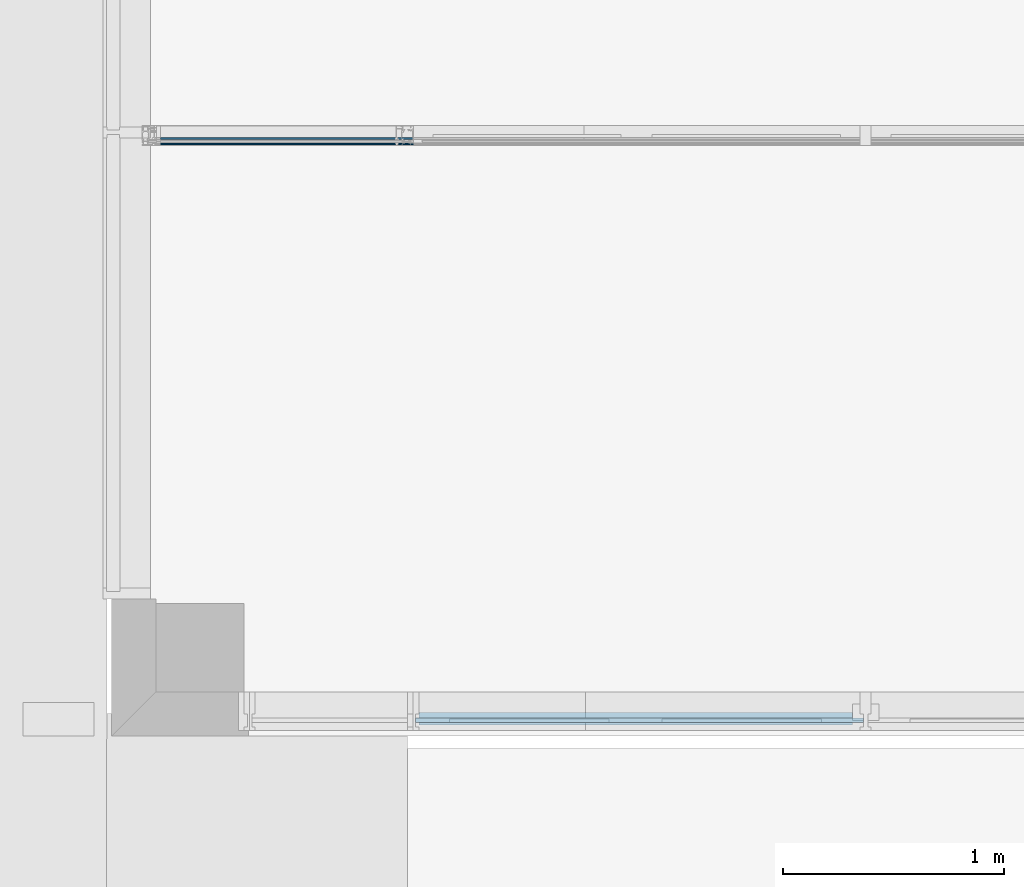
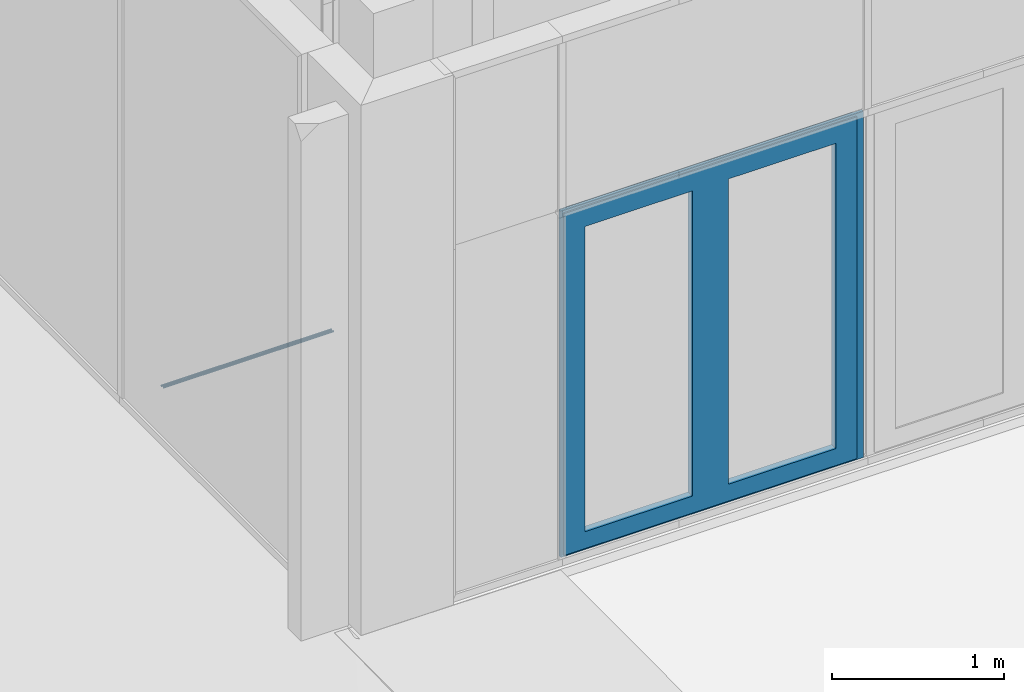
# One storey, part 14 of 69: 2 building element parts, 4 elements without a shape of their own.
"""IFC2X3 building model written with IfcOpenShell, lengths in millimetres."""

from ifc_helpers import new_model, entity, si_unit, converted_unit, derived_unit, money_unit, direction, frame, origin_with_axes, place, context, subcontext, project, spatial, faceted_brep, material, type_object, element, aggregate, save


model = new_model("IFC2X3")

# Units and contexts
model_context = context("Model", 3, precision=0.01, world=origin_with_axes(), true_north=direction((0.0, 1.0)))
body_context = subcontext(model_context, "Body", "Model", "MODEL_VIEW")
ifc_project = project(units=[si_unit("LENGTHUNIT", "METRE", prefix="MILLI"), si_unit("AREAUNIT", "SQUARE_METRE"), si_unit("VOLUMEUNIT", "CUBIC_METRE"), converted_unit("PLANEANGLEUNIT", "DEGREE", entity("IfcPlaneAngleMeasure", 0.0174532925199), si_unit("PLANEANGLEUNIT", "RADIAN"), dimensions=[0, 0, 0, 0, 0, 0, 0]), si_unit("SOLIDANGLEUNIT", "STERADIAN"), money_unit("EUR"), converted_unit("TIMEUNIT", "Year", entity("IfcTimeMeasure", 31556926.0), si_unit("TIMEUNIT", "SECOND"), dimensions=[0, 0, 1, 0, 0, 0, 0]), si_unit("MASSUNIT", "GRAM", prefix="KILO"), si_unit("THERMODYNAMICTEMPERATUREUNIT", "DEGREE_CELSIUS"), si_unit("LUMINOUSINTENSITYUNIT", "LUMEN"), si_unit("ENERGYUNIT", "JOULE", prefix="MEGA"), derived_unit("THERMALCONDUCTANCEUNIT", [(si_unit("POWERUNIT", "WATT"), 1), (si_unit("LENGTHUNIT", "METRE"), -1), (si_unit("THERMODYNAMICTEMPERATUREUNIT", "KELVIN"), -1)]), derived_unit("SPECIFICHEATCAPACITYUNIT", [(si_unit("ENERGYUNIT", "JOULE"), 1), (si_unit("MASSUNIT", "GRAM", prefix="KILO"), -1), (si_unit("THERMODYNAMICTEMPERATUREUNIT", "KELVIN"), -1)]), derived_unit("MASSDENSITYUNIT", [(si_unit("MASSUNIT", "GRAM", prefix="KILO"), 1), (si_unit("VOLUMEUNIT", "CUBIC_METRE"), -1)])], contexts=[model_context])

# Site, building, storey
site_placement = place(None, origin_with_axes())
site = spatial("IfcSite", under=ifc_project, at=site_placement, Name="Puškini 31, Narva", CompositionType="ELEMENT")
building_placement = place(site_placement, origin_with_axes())
building = spatial("IfcBuilding", under=site, at=building_placement, Name="Narva Riigigümnaasium", CompositionType="ELEMENT")
storey_placement = place(building_placement, origin_with_axes())
storey = spatial("IfcBuildingStorey", under=building, at=storey_placement, Name="1.korrus 0.00", CompositionType="ELEMENT", Elevation=0.0)

# Curtain wall, member, building element part
curtain_wall_type = type_object("IfcCurtainWallType", Name="Curtain Wall Type", PredefinedType="NOTDEFINED")
curtain_wall_1_placement = place(storey_placement, frame((18229.9603698, 152620.000001, -0.397158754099), z_axis=(0.0, 0.0, 1.0), x_axis=(1.0, 0.0, 0.0)))
curtain_wall_1 = element("IfcCurtainWall", 1, at=curtain_wall_1_placement, inside=storey, type_object=curtain_wall_type, Name="G-KLF-01-1")
member_type = type_object("IfcMemberType", Name="61 x 45", PredefinedType="MULLION")
member_placement = place(curtain_wall_1_placement, frame((-941.130133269, 0.0, 0.0), z_axis=(-1.0, 0.0, 0.0), x_axis=(0.0, 0.0, 1.0)))
member = element("IfcMember", 2, at=member_placement, type_object=member_type, Name="G-SKLF-01-raam", ObjectType="MULLION")
aggregate(curtain_wall_1, [member])
ifc_material_1 = material(Name="Membraan - Veekindel")
building_element_part_1_placement = place(member_placement, origin_with_axes())
building_element_part_1 = element("IfcBuildingElementPart", 3, at=building_element_part_1_placement, material=ifc_material_1, Name="Membraan - Veekindel", context=body_context, shape_type="Brep", body=[
    faceted_brep([(61.0413385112, -34.3890442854, 0.0), (61.0413385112, -34.3890442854, 1145.07042228), (59.5800222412, -34.73794757, 1145.07042228), (59.5800222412, -34.73794757, 0.0), (61.1536677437, -34.1934467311, 0.0), (61.1536677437, -34.1934467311, 1145.07042228), (61.1423164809, -33.9681748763, 1145.07042228), (61.0108941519, -33.784859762, 1145.07042228), (60.7381535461, -33.9217644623, 1145.07042228), (59.8409257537, -34.1343131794, 1145.07042228), (58.2346494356, -34.5489145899, 1145.07042228), (56.9567944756, -35.6067920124, 1145.07042228), (56.2495873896, -37.1074172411, 1145.07042228), (56.1542959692, -37.3107917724, 1145.07042228), (55.9795989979, -37.4519392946, 1145.07042228), (55.7607444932, -37.5023809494, 1145.07042228), (55.1093263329, -37.5023809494, 1145.07042228), (54.8593263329, -37.4353936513, 1145.07042228), (54.676313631, -37.2523809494, 1145.07042228), (54.2721684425, -36.5523809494, 1145.07042228), (54.0891557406, -36.3693682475, 1145.07042228), (53.8391557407, -36.3023809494, 1145.07042228), (51.602145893, -36.3023809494, 1145.07042228), (51.352145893, -36.3693682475, 1145.07042228), (51.1691331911, -36.5523809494, 1145.07042228), (50.7649880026, -37.2523809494, 1145.07042228), (50.5819753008, -37.4353936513, 1145.07042228), (50.3319753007, -37.5023809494, 1145.07042228), (49.2206527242, -37.5023809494, 1145.07042228), (48.9706527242, -37.5693682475, 1145.07042228), (48.7876400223, -37.7523809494, 1145.07042228), (48.7206527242, -38.0023809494, 1145.07042228), (48.7206527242, -39.1999494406, 1145.07042228), (50.10004, -39.1999494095, 1145.07042228), (50.1670287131, -38.9499497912, 1145.07042228), (50.3500424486, -38.7669381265, 1145.07042228), (50.6000428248, -38.699952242, 1145.07042228), (50.8500424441, -38.7669409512, 1145.07042228), (51.0330541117, -38.9499546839, 1145.07042228), (51.10004, -39.1999550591, 1145.07042228), (51.10004, -40.4999366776, 1145.07042228), (51.0598476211, -40.6499366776, 1145.07042228), (50.95004, -40.7597442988, 1145.07042228), (50.80004, -40.7999366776, 1145.07042228), (50.7000457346, -40.7999366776, 1145.07042228), (50.5334025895, -40.8504763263, 1145.07042228), (50.4229059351, -40.9850671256, 1145.07042228), (50.4057850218, -41.1583618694, 1145.07042228), (50.4878083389, -41.3119729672, 1145.07042228), (51.5281601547, -42.3533311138, 1145.07042228), (51.6904310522, -42.4618421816, 1145.07042228), (51.8818844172, -42.4999486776, 1145.07042228), (53.517932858, -42.4999486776, 1145.07042228), (53.7093558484, -42.4618547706, 1145.07042228), (53.8716106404, -42.3533776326, 1145.07042228), (54.9122350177, -41.3120206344, 1145.07042228), (54.9942836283, -41.1584047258, 1145.07042228), (54.9771753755, -40.9850924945, 1145.07042228), (54.866675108, -40.850483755, 1145.07042228), (54.7000173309, -40.7999366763, 1145.07042228), (54.6000210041, -40.7999366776, 1145.07042228), (54.4500210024, -40.7597443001, 1145.07042228), (54.3402133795, -40.6499366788, 1145.07042228), (54.300021, -40.4999366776, 1145.07042228), (54.300021, -39.1999606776, 1145.07042228), (54.3670082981, -38.9499606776, 1145.07042228), (54.5500210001, -38.7669479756, 1145.07042228), (54.8000210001, -38.6999606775, 1145.07042228), (55.0500210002, -38.7669479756, 1145.07042228), (55.2330337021, -38.9499606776, 1145.07042228), (55.3000210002, -39.1999606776, 1145.07042228), (57.3000022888, -39.1999494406, 1145.07042228), (57.3000022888, -39.9999846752, 1145.07042228), (57.5000161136, -39.9463912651, 1145.07042228), (57.6464370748, -39.7999717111, 1145.07042228), (57.7000324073, -39.5999584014, 1145.07042228), (57.9693613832, -36.5265882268, 1145.07042228), (58.4755028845, -35.3628499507, 1145.07042228), (53.5000340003, -40.7999553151, 1145.07042228), (53.4330491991, -41.0499459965, 1145.07042228), (53.2500433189, -41.2329518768, 1145.07042228), (53.0000526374, -41.299936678, 1145.07042228), (52.4000083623, -41.299936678, 1145.07042228), (52.150017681, -41.2329518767, 1145.07042228), (51.9670118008, -41.0499459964, 1145.07042228), (51.9000269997, -40.799955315, 1145.07042228), (51.9000269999, -39.6999268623, 1145.07042228), (51.9670129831, -39.4499317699, 1145.07042228), (52.1500220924, -39.2669226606, 1145.07042228), (52.4000171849, -39.1999366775, 1145.07042228), (53.0000438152, -39.1999366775, 1145.07042228), (53.2500389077, -39.2669226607, 1145.07042228), (53.433048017, -39.44993177, 1145.07042228), (58.4755028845, -35.3628499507, 0.0), (57.9693613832, -36.5265882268, 0.0), (57.7000324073, -39.5999584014, 0.0), (57.6464370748, -39.7999717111, 0.0), (57.5000161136, -39.9463912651, 0.0), (57.3000022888, -39.9999846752, 0.0), (57.3000022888, -39.1999494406, 0.0), (55.3000210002, -39.1999606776, 0.0), (55.2330337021, -38.9499606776, 0.0), (55.0500210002, -38.7669479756, 0.0), (54.8000210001, -38.6999606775, 0.0), (54.5500210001, -38.7669479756, 0.0), (54.3670082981, -38.9499606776, 0.0), (54.300021, -39.1999606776, 0.0), (54.300021, -40.4999366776, 0.0), (54.3402133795, -40.6499366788, 0.0), (54.4500210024, -40.7597443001, 0.0), (54.6000210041, -40.7999366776, 0.0), (54.7000173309, -40.7999366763, 0.0), (54.866675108, -40.850483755, 0.0), (54.9771753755, -40.9850924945, 0.0), (54.9942836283, -41.1584047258, 0.0), (54.9122350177, -41.3120206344, 0.0), (53.8716106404, -42.3533776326, 0.0), (53.7093558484, -42.4618547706, 0.0), (53.517932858, -42.4999486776, 0.0), (51.8818844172, -42.4999486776, 0.0), (51.6904310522, -42.4618421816, 0.0), (51.5281601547, -42.3533311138, 0.0), (50.4878083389, -41.3119729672, 0.0), (50.4057850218, -41.1583618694, 0.0), (50.4229059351, -40.9850671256, 0.0), (50.5334025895, -40.8504763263, 0.0), (50.7000457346, -40.7999366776, 0.0), (50.80004, -40.7999366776, 0.0), (50.95004, -40.7597442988, 0.0), (51.0598476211, -40.6499366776, 0.0), (51.10004, -40.4999366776, 0.0), (51.10004, -39.1999550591, 0.0), (51.0330541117, -38.9499546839, 0.0), (50.8500424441, -38.7669409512, 0.0), (50.6000428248, -38.699952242, 0.0), (50.3500424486, -38.7669381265, 0.0), (50.1670287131, -38.9499497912, 0.0), (50.10004, -39.1999494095, 0.0), (48.7206527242, -39.1999494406, 0.0), (48.7206527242, -38.0023809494, 0.0), (48.7876400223, -37.7523809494, 0.0), (48.9706527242, -37.5693682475, 0.0), (49.2206527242, -37.5023809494, 0.0), (50.3319753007, -37.5023809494, 0.0), (50.5819753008, -37.4353936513, 0.0), (50.7649880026, -37.2523809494, 0.0), (51.1691331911, -36.5523809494, 0.0), (51.352145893, -36.3693682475, 0.0), (51.602145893, -36.3023809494, 0.0), (53.8391557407, -36.3023809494, 0.0), (54.0891557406, -36.3693682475, 0.0), (54.2721684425, -36.5523809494, 0.0), (54.676313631, -37.2523809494, 0.0), (54.8593263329, -37.4353936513, 0.0), (55.1093263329, -37.5023809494, 0.0), (55.7607444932, -37.5023809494, 0.0), (55.9795989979, -37.4519392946, 0.0), (56.1542959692, -37.3107917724, 0.0), (56.2495873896, -37.1074172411, 0.0), (56.9567944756, -35.6067920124, 0.0), (58.2346494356, -34.5489145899, 0.0), (59.8409257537, -34.1343131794, 0.0), (60.7381535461, -33.9217644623, 0.0), (61.0108941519, -33.784859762, 0.0), (61.1423164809, -33.9681748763, 0.0), (53.5000340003, -40.7999553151, 0.0), (53.433048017, -39.44993177, 0.0), (53.2500389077, -39.2669226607, 0.0), (53.0000438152, -39.1999366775, 0.0), (52.4000171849, -39.1999366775, 0.0), (52.1500220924, -39.2669226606, 0.0), (51.9670129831, -39.4499317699, 0.0), (51.9000269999, -39.6999268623, 0.0), (51.9000269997, -40.799955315, 0.0), (51.9670118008, -41.0499459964, 0.0), (52.150017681, -41.2329518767, 0.0), (52.4000083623, -41.299936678, 0.0), (53.0000526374, -41.299936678, 0.0), (53.2500433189, -41.2329518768, 0.0), (53.4330491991, -41.0499459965, 0.0)], [[[0, 1, 2, 3]], [[4, 5, 1, 0]], [[1, 5, 6, 7, 8, 9, 10, 11, 12, 13, 14, 15, 16, 17, 18, 19, 20, 21, 22, 23, 24, 25, 26, 27, 28, 29, 30, 31, 32, 33, 34, 35, 36, 37, 38, 39, 40, 41, 42, 43, 44, 45, 46, 47, 48, 49, 50, 51, 52, 53, 54, 55, 56, 57, 58, 59, 60, 61, 62, 63, 64, 65, 66, 67, 68, 69, 70, 71, 72, 73, 74, 75, 76, 77, 2], [78, 79, 80, 81, 82, 83, 84, 85, 86, 87, 88, 89, 90, 91, 92]], [[3, 2, 77, 93]], [[0, 3, 93, 94, 95, 96, 97, 98, 99, 100, 101, 102, 103, 104, 105, 106, 107, 108, 109, 110, 111, 112, 113, 114, 115, 116, 117, 118, 119, 120, 121, 122, 123, 124, 125, 126, 127, 128, 129, 130, 131, 132, 133, 134, 135, 136, 137, 138, 139, 140, 141, 142, 143, 144, 145, 146, 147, 148, 149, 150, 151, 152, 153, 154, 155, 156, 157, 158, 159, 160, 161, 162, 163, 164, 4], [165, 166, 167, 168, 169, 170, 171, 172, 173, 174, 175, 176, 177, 178, 179]], [[164, 6, 5, 4]], [[163, 7, 6, 164]], [[162, 8, 7, 163]], [[161, 9, 8, 162]], [[160, 10, 9, 161]], [[159, 11, 10, 160]], [[158, 12, 11, 159]], [[157, 13, 12, 158]], [[156, 14, 13, 157]], [[155, 15, 14, 156]], [[154, 16, 15, 155]], [[153, 17, 16, 154]], [[152, 18, 17, 153]], [[151, 19, 18, 152]], [[150, 20, 19, 151]], [[149, 21, 20, 150]], [[148, 22, 21, 149]], [[147, 23, 22, 148]], [[146, 24, 23, 147]], [[145, 25, 24, 146]], [[144, 26, 25, 145]], [[143, 27, 26, 144]], [[142, 28, 27, 143]], [[141, 29, 28, 142]], [[140, 30, 29, 141]], [[139, 31, 30, 140]], [[138, 32, 31, 139]], [[137, 33, 32, 138]], [[136, 34, 33, 137]], [[135, 35, 34, 136]], [[134, 36, 35, 135]], [[133, 37, 36, 134]], [[132, 38, 37, 133]], [[131, 39, 38, 132]], [[130, 40, 39, 131]], [[129, 41, 40, 130]], [[128, 42, 41, 129]], [[127, 43, 42, 128]], [[126, 44, 43, 127]], [[125, 45, 44, 126]], [[124, 46, 45, 125]], [[123, 47, 46, 124]], [[122, 48, 47, 123]], [[121, 49, 48, 122]], [[120, 50, 49, 121]], [[119, 51, 50, 120]], [[118, 52, 51, 119]], [[117, 53, 52, 118]], [[116, 54, 53, 117]], [[115, 55, 54, 116]], [[114, 56, 55, 115]], [[113, 57, 56, 114]], [[112, 58, 57, 113]], [[111, 59, 58, 112]], [[110, 60, 59, 111]], [[109, 61, 60, 110]], [[108, 62, 61, 109]], [[107, 63, 62, 108]], [[106, 64, 63, 107]], [[105, 65, 64, 106]], [[104, 66, 65, 105]], [[103, 67, 66, 104]], [[102, 68, 67, 103]], [[101, 69, 68, 102]], [[100, 70, 69, 101]], [[99, 71, 70, 100]], [[98, 72, 71, 99]], [[97, 73, 72, 98]], [[96, 74, 73, 97]], [[95, 75, 74, 96]], [[94, 76, 75, 95]], [[93, 77, 76, 94]], [[179, 79, 78, 165]], [[178, 80, 79, 179]], [[177, 81, 80, 178]], [[176, 82, 81, 177]], [[175, 83, 82, 176]], [[174, 84, 83, 175]], [[173, 85, 84, 174]], [[172, 86, 85, 173]], [[171, 87, 86, 172]], [[170, 88, 87, 171]], [[169, 89, 88, 170]], [[168, 90, 89, 169]], [[167, 91, 90, 168]], [[166, 92, 91, 167]], [[165, 78, 92, 166]]]),
    faceted_brep([(59.0307115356, -16.554149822, 0.0), (59.0307115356, -16.554149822, 1145.07042228), (55.9926715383, -16.8063498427, 1145.07042228), (55.9926715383, -16.8063498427, 0.0), (59.3884652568, -16.1092618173, 0.0), (59.3884652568, -16.1092618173, 1145.07042228), (59.5001582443, -15.5494067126, 1145.07042228), (59.3405112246, -15.0012955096, 1145.07042228), (57.5418652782, -10.0035930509, 1145.07042228), (57.2632233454, -8.46932121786, 1145.07042228), (57.1824204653, -8.36745448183, 1145.07042228), (57.0661058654, -8.3093438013, 1145.07042228), (56.9361285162, -8.30590490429, 1145.07042228), (55.5361285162, -8.57803733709, 1145.07042228), (55.4168250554, -8.6299735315, 1145.07042228), (55.3307332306, -8.7275382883, 1145.07042228), (55.2940485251, -8.85237785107, 1145.07042228), (55.4099827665, -9.81272116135, 1145.07042228), (55.3838261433, -9.97808311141, 1145.07042228), (55.2731258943, -10.1036784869, 1145.07042228), (55.1123574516, -10.1503930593, 1145.07042228), (53.0580290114, -10.1503930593, 1145.07042228), (52.8859560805, -10.0961386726, 1145.07042228), (52.7761212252, -9.95299910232, 1145.07042228), (52.3556584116, -8.79778701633, 1145.07042228), (52.2574645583, -8.66326410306, 1145.07042228), (52.1026310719, -8.60190419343, 1145.07042228), (51.938943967, -8.6326446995, 1145.07042228), (51.8169217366, -8.74599822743, 1145.07042228), (45.6142070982, -15.4144760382, 1145.07042228), (45.3418968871, -15.7688623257, 1145.07042228), (45.3195226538, -16.2152275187, 1145.07042228), (45.3889077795, -16.3899097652, 1145.07042228), (45.6241929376, -16.6482027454, 1145.07042228), (45.950966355, -16.7718696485, 1145.07042228), (46.298307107, -16.7340705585, 1145.07042228), (50.5536994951, -15.2121179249, 1145.07042228), (50.8437237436, -15.0307134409, 1145.07042228), (51.0558924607, -14.9074036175, 1145.07042228), (51.3011765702, -14.8998814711, 1145.07042228), (51.5205025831, -15.0099586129, 1145.07042228), (53.1225200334, -16.3483062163, 1145.07042228), (53.7899070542, -16.6230039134, 1145.07042228), (53.7899070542, -16.6230039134, 0.0), (53.1225200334, -16.3483062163, 0.0), (51.5205025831, -15.0099586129, 0.0), (51.3011765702, -14.8998814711, 0.0), (51.0558924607, -14.9074036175, 0.0), (50.8437237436, -15.0307134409, 0.0), (50.5536994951, -15.2121179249, 0.0), (46.298307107, -16.7340705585, 0.0), (45.950966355, -16.7718696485, 0.0), (45.6241929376, -16.6482027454, 0.0), (45.3889077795, -16.3899097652, 0.0), (45.3195226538, -16.2152275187, 0.0), (45.3418968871, -15.7688623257, 0.0), (45.6142070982, -15.4144760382, 0.0), (51.8169217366, -8.74599822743, 0.0), (51.938943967, -8.6326446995, 0.0), (52.1026310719, -8.60190419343, 0.0), (52.2574645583, -8.66326410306, 0.0), (52.3556584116, -8.79778701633, 0.0), (52.7761212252, -9.95299910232, 0.0), (52.8859560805, -10.0961386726, 0.0), (53.0580290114, -10.1503930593, 0.0), (55.1123574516, -10.1503930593, 0.0), (55.2731258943, -10.1036784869, 0.0), (55.3838261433, -9.97808311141, 0.0), (55.4099827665, -9.81272116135, 0.0), (55.2940485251, -8.85237785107, 0.0), (55.3307332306, -8.7275382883, 0.0), (55.4168250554, -8.6299735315, 0.0), (55.5361285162, -8.57803733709, 0.0), (56.9361285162, -8.30590490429, 0.0), (57.0661058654, -8.3093438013, 0.0), (57.1824204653, -8.36745448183, 0.0), (57.2632233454, -8.46932121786, 0.0), (57.5418652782, -10.0035930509, 0.0), (59.3405112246, -15.0012955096, 0.0), (59.5001582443, -15.5494067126, 0.0)], [[[0, 1, 2, 3]], [[4, 5, 1, 0]], [[1, 5, 6, 7, 8, 9, 10, 11, 12, 13, 14, 15, 16, 17, 18, 19, 20, 21, 22, 23, 24, 25, 26, 27, 28, 29, 30, 31, 32, 33, 34, 35, 36, 37, 38, 39, 40, 41, 42, 2]], [[3, 2, 42, 43]], [[0, 3, 43, 44, 45, 46, 47, 48, 49, 50, 51, 52, 53, 54, 55, 56, 57, 58, 59, 60, 61, 62, 63, 64, 65, 66, 67, 68, 69, 70, 71, 72, 73, 74, 75, 76, 77, 78, 79, 4]], [[79, 6, 5, 4]], [[78, 7, 6, 79]], [[77, 8, 7, 78]], [[76, 9, 8, 77]], [[75, 10, 9, 76]], [[74, 11, 10, 75]], [[73, 12, 11, 74]], [[72, 13, 12, 73]], [[71, 14, 13, 72]], [[70, 15, 14, 71]], [[69, 16, 15, 70]], [[68, 17, 16, 69]], [[67, 18, 17, 68]], [[66, 19, 18, 67]], [[65, 20, 19, 66]], [[64, 21, 20, 65]], [[63, 22, 21, 64]], [[62, 23, 22, 63]], [[61, 24, 23, 62]], [[60, 25, 24, 61]], [[59, 26, 25, 60]], [[58, 27, 26, 59]], [[57, 28, 27, 58]], [[56, 29, 28, 57]], [[55, 30, 29, 56]], [[54, 31, 30, 55]], [[53, 32, 31, 54]], [[52, 33, 32, 53]], [[51, 34, 33, 52]], [[50, 35, 34, 51]], [[49, 36, 35, 50]], [[48, 37, 36, 49]], [[47, 38, 37, 48]], [[46, 39, 38, 47]], [[45, 40, 39, 46]], [[44, 41, 40, 45]], [[43, 42, 41, 44]]]),
])
aggregate(member, [building_element_part_1])

# Curtain wall, door, building element part
curtain_wall_2_placement = place(storey_placement, frame((18232.2449236, 149970.00001, 0.0), z_axis=(0.0, 0.0, 1.0), x_axis=(1.0, 0.0, 0.0)))
curtain_wall_2 = element("IfcCurtainWall", 4, at=curtain_wall_2_placement, inside=storey, type_object=curtain_wall_type, Name="G-KLF-01a")
door_style = type_object("IfcDoorStyle", Name="1259 x 2455 x 20", ConstructionType="NOTDEFINED", OperationType="NOTDEFINED", ParameterTakesPrecedence=False, Sizeable=False)
door_placement = place(curtain_wall_2_placement, frame((0.0, 0.0, 1249.99997309), z_axis=(0.0, 0.0, 1.0), x_axis=(1.0, 0.0, 0.0)))
door = element("IfcDoor", 5, at=door_placement, type_object=door_style, Name="G-KLF-01-VU-01", ObjectType="DOOR")
aggregate(curtain_wall_2, [door])
ifc_material_2 = material(Name="ET-04_Alumiinium")
building_element_part_2_placement = place(door_placement, origin_with_axes())
building_element_part_2 = element("IfcBuildingElementPart", 6, at=building_element_part_2_placement, material=ifc_material_2, Name="ET-04_Alumiinium", context=body_context, shape_type="Brep", body=[
    faceted_brep([(-918.561248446, 35.0, -1199.99997358), (-918.561248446, 30.0, -1199.99997358), (-918.561248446, 30.0, 1225.00000285), (-918.561248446, 35.0, 1225.00000285), (-873.561248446, 35.0, -1199.99997358), (-873.561248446, 30.0, -1199.99997358), (-873.561248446, 30.0, 1180.00000285), (-873.561248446, 35.0, 1180.00000285)], [[[0, 1, 2, 3]], [[4, 5, 1, 0]], [[1, 5, 6, 2]], [[3, 2, 6, 7]], [[0, 3, 7, 4]], [[7, 6, 5, 4]]]),
    faceted_brep([(1046.43873991, 35.0, 1225.00000285), (1046.43873991, 30.0, 1225.00000285), (1001.43873991, 30.0, 1180.00000285), (1001.43873991, 35.0, 1180.00000285), (-918.561248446, 35.0, 1225.00000285), (-918.561248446, 30.0, 1225.00000285), (-873.561248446, 30.0, 1180.00000285), (-873.561248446, 35.0, 1180.00000285)], [[[0, 1, 2, 3]], [[4, 5, 1, 0]], [[1, 5, 6, 2]], [[3, 2, 6, 7]], [[0, 3, 7, 4]], [[7, 6, 5, 4]]]),
    faceted_brep([(1046.43873991, 35.0, -1199.99997358), (1046.43873991, 30.0, -1199.99997358), (1001.43873991, 30.0, -1199.99997358), (1001.43873991, 35.0, -1199.99997358), (1046.43873991, 35.0, 1225.00000285), (1046.43873991, 30.0, 1225.00000285), (1001.43873991, 30.0, 1180.00000285), (1001.43873991, 35.0, 1180.00000285)], [[[0, 1, 2, 3]], [[4, 5, 1, 0]], [[1, 5, 6, 2]], [[3, 2, 6, 7]], [[0, 3, 7, 4]], [[7, 6, 5, 4]]]),
    faceted_brep([(-918.561248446, 30.0, -1199.99997358), (-918.561248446, -20.0, -1199.99997358), (-918.561248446, -20.0, 1225.00000285), (-918.561248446, 30.0, 1225.00000285), (-898.561248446, 30.0, -1199.99997358), (-898.561248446, -20.0, -1199.99997358), (-898.561248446, -20.0, 1205.00000285), (-898.561248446, 30.0, 1205.00000285)], [[[0, 1, 2, 3]], [[4, 5, 1, 0]], [[1, 5, 6, 2]], [[3, 2, 6, 7]], [[0, 3, 7, 4]], [[7, 6, 5, 4]]]),
    faceted_brep([(1046.43873991, 30.0, 1225.00000285), (1046.43873991, -20.0, 1225.00000285), (1026.43873991, -20.0, 1205.00000285), (1026.43873991, 30.0, 1205.00000285), (-918.561248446, 30.0, 1225.00000285), (-918.561248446, -20.0, 1225.00000285), (-898.561248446, -20.0, 1205.00000285), (-898.561248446, 30.0, 1205.00000285)], [[[0, 1, 2, 3]], [[4, 5, 1, 0]], [[1, 5, 6, 2]], [[3, 2, 6, 7]], [[0, 3, 7, 4]], [[7, 6, 5, 4]]]),
    faceted_brep([(1046.43873991, 30.0, -1199.99997358), (1046.43873991, -20.0, -1199.99997358), (1026.43873991, -20.0, -1199.99997358), (1026.43873991, 30.0, -1199.99997358), (1046.43873991, 30.0, 1225.00000285), (1046.43873991, -20.0, 1225.00000285), (1026.43873991, -20.0, 1205.00000285), (1026.43873991, 30.0, 1205.00000285)], [[[0, 1, 2, 3]], [[4, 5, 1, 0]], [[1, 5, 6, 2]], [[3, 2, 6, 7]], [[0, 3, 7, 4]], [[7, 6, 5, 4]]]),
    faceted_brep([(1096.43873942, 10.0, -1214.99998088), (1096.43873942, -9.99999999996, -1214.99998088), (-933.561218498, -9.99999999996, -1214.99998088), (-933.561218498, 10.0, -1214.99998088), (1046.43873991, 10.0, -1199.99997358), (1046.43873991, -9.99999999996, -1199.99997358), (-918.561248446, -9.99999999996, -1199.99997358), (-918.561248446, 10.0, -1199.99997358)], [[[0, 1, 2, 3]], [[4, 5, 1, 0]], [[1, 5, 6, 2]], [[3, 2, 6, 7]], [[0, 3, 7, 4]], [[7, 6, 5, 4]]]),
    faceted_brep([(-933.561218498, 10.0, -1214.99998088), (-933.561218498, -9.99999999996, -1214.99998088), (-933.561218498, -9.99999999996, 1240.00001016), (-933.561218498, 10.0, 1240.00001016), (-918.561248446, 10.0, -1199.99997358), (-918.561248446, -9.99999999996, -1199.99997358), (-918.561248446, -9.99999999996, 1225.00000285), (-918.561248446, 10.0, 1225.00000285)], [[[0, 1, 2, 3]], [[4, 5, 1, 0]], [[1, 5, 6, 2]], [[3, 2, 6, 7]], [[0, 3, 7, 4]], [[7, 6, 5, 4]]]),
    faceted_brep([(-933.561218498, 10.0, 1240.00001016), (-933.561218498, -9.99999999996, 1240.00001016), (1096.43873942, -9.99999999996, 1240.00001016), (1096.43873942, 10.0, 1240.00001016), (-918.561248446, 10.0, 1225.00000285), (-918.561248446, -9.99999999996, 1225.00000285), (1046.43873991, -9.99999999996, 1225.00000285), (1046.43873991, 10.0, 1225.00000285)], [[[0, 1, 2, 3]], [[4, 5, 1, 0]], [[1, 5, 6, 2]], [[3, 2, 6, 7]], [[0, 3, 7, 4]], [[7, 6, 5, 4]]]),
    faceted_brep([(1096.43873942, 10.0, 1240.00001016), (1096.43873942, -9.99999999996, 1240.00001016), (1096.43873942, -9.99999999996, -1214.99998088), (1096.43873942, 10.0, -1214.99998088), (1046.43873991, 10.0, 1225.00000285), (1046.43873991, -9.99999999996, 1225.00000285), (1046.43873991, -9.99999999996, -1199.99997358), (1046.43873991, 10.0, -1199.99997358)], [[[0, 1, 2, 3]], [[4, 5, 1, 0]], [[1, 5, 6, 2]], [[3, 2, 6, 7]], [[0, 3, 7, 4]], [[7, 6, 5, 4]]]),
    faceted_brep([(906.438739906, 30.0, -1079.99997358), (906.438739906, -20.0, -1079.99997358), (906.438739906, -20.0, 1085.00000285), (906.438739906, 30.0, 1085.00000285), (1026.43873991, 30.0, -1199.99997358), (1026.43873991, -20.0, -1199.99997358), (1026.43873991, -20.0, 1205.00000285), (1026.43873991, 30.0, 1205.00000285)], [[[0, 1, 2, 3]], [[4, 5, 1, 0]], [[1, 5, 6, 2]], [[3, 2, 6, 7]], [[0, 3, 7, 4]], [[7, 6, 5, 4]]]),
    faceted_brep([(63.93874573, 30.0, -1199.99997358), (63.93874573, -20.0, -1199.99997358), (63.93874573, -20.0, 1205.00000285), (63.93874573, 30.0, 1205.00000285), (183.93874573, 30.0, -1079.99997358), (183.93874573, -20.0, -1079.99997358), (183.93874573, -20.0, 1085.00000285), (183.93874573, 30.0, 1085.00000285)], [[[0, 1, 2, 3]], [[4, 5, 1, 0]], [[1, 5, 6, 2]], [[3, 2, 6, 7]], [[0, 3, 7, 4]], [[7, 6, 5, 4]]]),
    faceted_brep([(63.93874573, 30.0, -1199.99997358), (63.93874573, -20.0, -1199.99997358), (183.93874573, -20.0, -1079.99997358), (183.93874573, 30.0, -1079.99997358), (1026.43873991, 30.0, -1199.99997358), (1026.43873991, -20.0, -1199.99997358), (906.438739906, -20.0, -1079.99997358), (906.438739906, 30.0, -1079.99997358)], [[[0, 1, 2, 3]], [[4, 5, 1, 0]], [[1, 5, 6, 2]], [[3, 2, 6, 7]], [[0, 3, 7, 4]], [[7, 6, 5, 4]]]),
    faceted_brep([(1026.43873991, 30.0, 1205.00000285), (1026.43873991, -20.0, 1205.00000285), (906.438739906, -20.0, 1085.00000285), (906.438739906, 30.0, 1085.00000285), (63.93874573, 30.0, 1205.00000285), (63.93874573, -20.0, 1205.00000285), (183.93874573, -20.0, 1085.00000285), (183.93874573, 30.0, 1085.00000285)], [[[0, 1, 2, 3]], [[4, 5, 1, 0]], [[1, 5, 6, 2]], [[3, 2, 6, 7]], [[0, 3, 7, 4]], [[7, 6, 5, 4]]]),
    faceted_brep([(-56.06125427, 30.0, -1079.99997358), (-56.06125427, -20.0, -1079.99997358), (-56.06125427, -20.0, 1085.00000285), (-56.06125427, 30.0, 1085.00000285), (63.93874573, 30.0, -1199.99997358), (63.93874573, -20.0, -1199.99997358), (63.93874573, -20.0, 1205.00000285), (63.93874573, 30.0, 1205.00000285)], [[[0, 1, 2, 3]], [[4, 5, 1, 0]], [[1, 5, 6, 2]], [[3, 2, 6, 7]], [[0, 3, 7, 4]], [[7, 6, 5, 4]]]),
    faceted_brep([(-898.561248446, 30.0, -1199.99997358), (-898.561248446, -20.0, -1199.99997358), (-898.561248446, -20.0, 1205.00000285), (-898.561248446, 30.0, 1205.00000285), (-778.561248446, 30.0, -1079.99997358), (-778.561248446, -20.0, -1079.99997358), (-778.561248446, -20.0, 1085.00000285), (-778.561248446, 30.0, 1085.00000285)], [[[0, 1, 2, 3]], [[4, 5, 1, 0]], [[1, 5, 6, 2]], [[3, 2, 6, 7]], [[0, 3, 7, 4]], [[7, 6, 5, 4]]]),
    faceted_brep([(-898.561248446, 30.0, -1199.99997358), (-898.561248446, -20.0, -1199.99997358), (-778.561248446, -20.0, -1079.99997358), (-778.561248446, 30.0, -1079.99997358), (63.93874573, 30.0, -1199.99997358), (63.93874573, -20.0, -1199.99997358), (-56.06125427, -20.0, -1079.99997358), (-56.06125427, 30.0, -1079.99997358)], [[[0, 1, 2, 3]], [[4, 5, 1, 0]], [[1, 5, 6, 2]], [[3, 2, 6, 7]], [[0, 3, 7, 4]], [[7, 6, 5, 4]]]),
    faceted_brep([(63.93874573, 30.0, 1205.00000285), (63.93874573, -20.0, 1205.00000285), (-56.06125427, -20.0, 1085.00000285), (-56.06125427, 30.0, 1085.00000285), (-898.561248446, 30.0, 1205.00000285), (-898.561248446, -20.0, 1205.00000285), (-778.561248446, -20.0, 1085.00000285), (-778.561248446, 30.0, 1085.00000285)], [[[0, 1, 2, 3]], [[4, 5, 1, 0]], [[1, 5, 6, 2]], [[3, 2, 6, 7]], [[0, 3, 7, 4]], [[7, 6, 5, 4]]]),
])
aggregate(door, [building_element_part_2])

save(model, "model.ifc")
